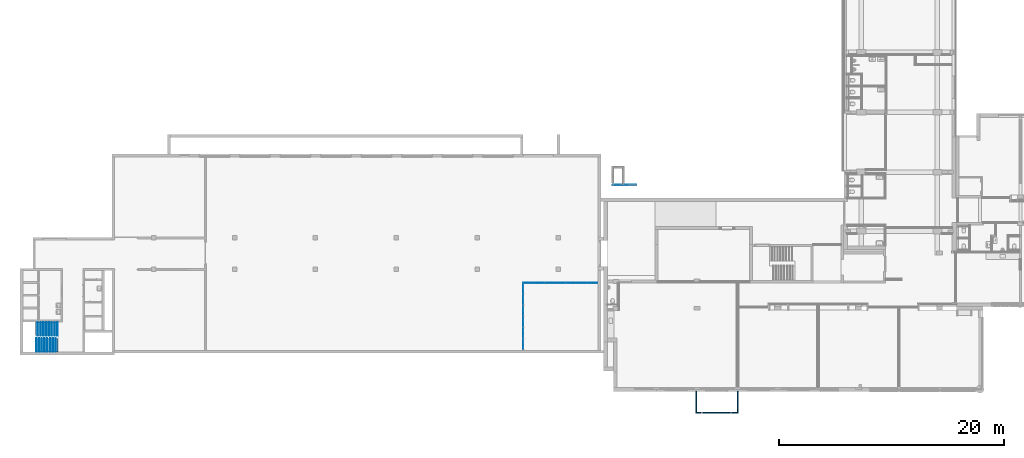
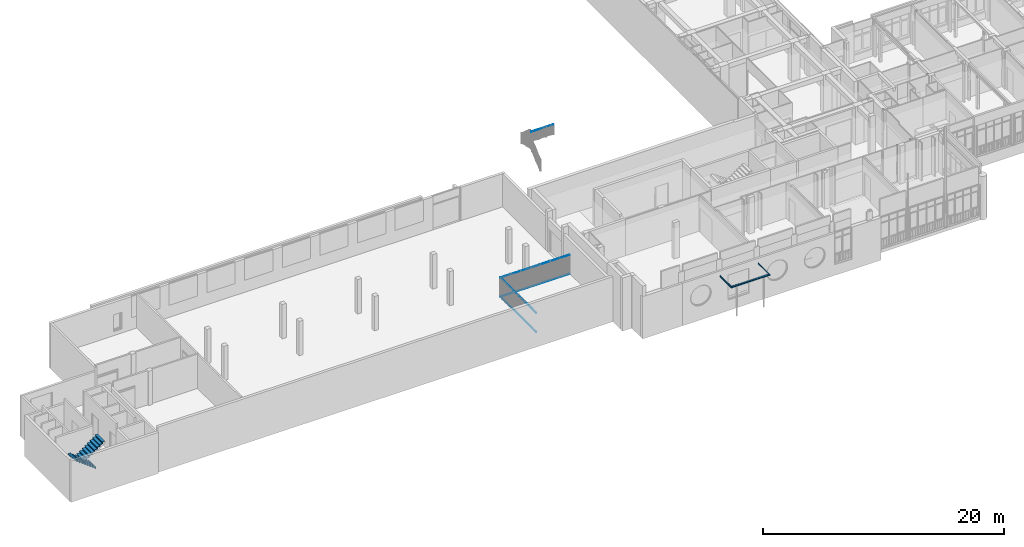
# One storey, part 56 of 135: 37 members, 3 beams, 4 elements without a shape of their own.
"""IFC2X3 building model written with IfcOpenShell, lengths in millimetres."""

from ifc_helpers import new_model, entity, si_unit, converted_unit, derived_unit, money_unit, direction, frame, origin_with_axes, place, context, subcontext, project, spatial, faceted_brep, material, type_object, element, aggregate, save


model = new_model("IFC2X3")

# Units and contexts
model_context = context("Model", 3, precision=0.01, world=origin_with_axes(), true_north=direction((0.0, 1.0)))
body_context = subcontext(model_context, "Body", "Model", "MODEL_VIEW")
ifc_project = project(units=[si_unit("LENGTHUNIT", "METRE", prefix="MILLI"), si_unit("AREAUNIT", "SQUARE_METRE"), si_unit("VOLUMEUNIT", "CUBIC_METRE"), converted_unit("PLANEANGLEUNIT", "DEGREE", entity("IfcPlaneAngleMeasure", 0.0174532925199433), si_unit("PLANEANGLEUNIT", "RADIAN"), dimensions=[0, 0, 0, 0, 0, 0, 0]), money_unit("EUR"), converted_unit("TIMEUNIT", "Year", entity("IfcTimeMeasure", 31557600.0), si_unit("TIMEUNIT", "SECOND"), dimensions=[0, 0, 1, 0, 0, 0, 0]), si_unit("MASSUNIT", "GRAM", prefix="KILO"), si_unit("THERMODYNAMICTEMPERATUREUNIT", "DEGREE_CELSIUS"), si_unit("LUMINOUSINTENSITYUNIT", "LUMEN"), si_unit("ENERGYUNIT", "JOULE", prefix="MEGA"), derived_unit("THERMALCONDUCTANCEUNIT", [(si_unit("POWERUNIT", "WATT"), 1), (si_unit("LENGTHUNIT", "METRE"), -1), (si_unit("THERMODYNAMICTEMPERATUREUNIT", "KELVIN"), -1)]), derived_unit("SPECIFICHEATCAPACITYUNIT", [(si_unit("ENERGYUNIT", "JOULE"), 1), (si_unit("MASSUNIT", "GRAM", prefix="KILO"), -1), (si_unit("THERMODYNAMICTEMPERATUREUNIT", "KELVIN"), -1)]), derived_unit("MASSDENSITYUNIT", [(si_unit("MASSUNIT", "GRAM", prefix="KILO"), 1), (si_unit("VOLUMEUNIT", "CUBIC_METRE"), -1)])], contexts=[model_context])

# Site, building, storey
site_placement = place(None, origin_with_axes())
site = spatial("IfcSite", under=ifc_project, at=site_placement, Name="Site", CompositionType="ELEMENT")
building_placement = place(site_placement, origin_with_axes())
building = spatial("IfcBuilding", under=site, at=building_placement, Name="Naam gebouw", CompositionType="ELEMENT")
storey_placement = place(building_placement, origin_with_axes())
storey = spatial("IfcBuildingStorey", under=building, at=storey_placement, Name="Begane grond N", CompositionType="ELEMENT", Elevation=0.0)

# Railing, member
railing_type = type_object("IfcRailingType", Name="Railing Type", PredefinedType="NOTDEFINED")
railing_1_placement = place(storey_placement, frame((799.9999999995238, 21575.82979156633, 4340.731848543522), z_axis=(0.0, 0.0, 1.0), x_axis=(1.0, 0.0, 0.0)))
railing_1 = element("IfcRailing", 1, at=railing_1_placement, inside=storey, type_object=railing_type, Name="_Reling-x", PredefinedType="NOTDEFINED")
ifc_material_1 = material(Name="Metaal - Staal C")
member_type_1 = type_object("IfcMemberType", Name="IfcMember", PredefinedType="USERDEFINED")
member_1_placement = place(railing_1_placement, frame((-32.49999999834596, -99.99999999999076, 4293.683880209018), z_axis=(0.0, 0.0, 1.0), x_axis=(1.0, 0.0, 0.0)))
member_1 = element("IfcMember", 2, at=member_1_placement, type_object=member_type_1, material=ifc_material_1, Name="_Bovenregel-x", context=body_context, shape_type="Brep", body=[
    faceted_brep([(-1072.499999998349, -19.99999999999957, 28.28427124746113), (-1072.499999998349, -19.99999999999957, 8.284271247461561), (1052.499999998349, -19.99999999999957, 8.284271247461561), (1052.499999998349, -19.99999999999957, 28.28427124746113), (-1032.499999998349, 19.99999999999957, 28.28427124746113), (-1032.499999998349, 19.99999999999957, 8.284271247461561), (1052.499999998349, 19.99999999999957, 8.284271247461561), (1052.499999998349, 19.99999999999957, 28.28427124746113)], [[[0, 1, 2, 3]], [[0, 4, 5, 1]], [[1, 5, 6, 2]], [[3, 2, 6, 7]], [[4, 0, 3, 7]], [[5, 4, 7, 6]]]),
])
aggregate(railing_1, [member_1])

# Railing, members
railing_2_placement = place(storey_placement, frame((-9250.67106541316, 12765.57502437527, 0.0), z_axis=(0.0, 0.0, 1.0), x_axis=(1.0, 0.0, 0.0)))
railing_2 = element("IfcRailing", 3, at=railing_2_placement, inside=storey, type_object=railing_type, Name="_Reling-x", PredefinedType="NOTDEFINED")
member_2_placement = place(railing_2_placement, frame((996.6510855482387, -2975.0, 1971.715728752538), z_axis=(0.0, 0.0, 1.0), x_axis=(1.0, 0.0, 0.0)))
member_2 = element("IfcMember", 4, at=member_2_placement, type_object=member_type_1, material=ifc_material_1, Name="_Bovenregel-x", context=body_context, shape_type="Brep", body=[
    faceted_brep([(19.99999999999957, -2950.0, 28.2842712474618), (19.99999999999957, -2950.0, 8.284271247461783), (19.99999999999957, 2930.000000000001, 8.284271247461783), (19.99999999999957, 2930.000000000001, 28.2842712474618), (-19.99999999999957, -2950.0, 28.2842712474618), (-19.99999999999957, -2950.0, 8.284271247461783), (-19.99999999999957, 2970.0, 8.284271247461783), (-19.99999999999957, 2970.0, 28.2842712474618)], [[[0, 1, 2, 3]], [[0, 4, 5, 1]], [[1, 5, 6, 2]], [[3, 2, 6, 7]], [[4, 0, 3, 7]], [[5, 4, 7, 6]]]),
])
member_3_placement = place(railing_2_placement, frame((996.6510855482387, -2975.0, 27.63932022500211), z_axis=(0.0, 0.0, 1.0), x_axis=(1.0, 0.0, 0.0)))
member_3 = element("IfcMember", 5, at=member_3_placement, type_object=member_type_1, material=ifc_material_1, Name="_Regel-x", context=body_context, shape_type="Brep", body=[
    faceted_brep([(19.99999999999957, -2950.0, 32.36067977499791), (19.99999999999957, -2950.0, 12.36067977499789), (19.99999999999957, 2930.000000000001, 12.36067977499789), (19.99999999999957, 2930.000000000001, 32.36067977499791), (-19.99999999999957, -2950.0, 32.36067977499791), (-19.99999999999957, -2950.0, 12.36067977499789), (-19.99999999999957, 2970.0, 12.36067977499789), (-19.99999999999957, 2970.0, 32.36067977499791)], [[[0, 1, 2, 3]], [[0, 4, 5, 1]], [[1, 5, 6, 2]], [[3, 2, 6, 7]], [[4, 0, 3, 7]], [[5, 4, 7, 6]]]),
])
member_4_placement = place(railing_2_placement, frame((4286.161076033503, -25.00000000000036, 1971.715728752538), z_axis=(0.0, 0.0, 1.0), x_axis=(1.0, 0.0, 0.0)))
member_4 = element("IfcMember", 6, at=member_4_placement, type_object=member_type_1, material=ifc_material_1, Name="_Bovenregel-x", context=body_context, shape_type="Brep", body=[
    faceted_brep([(-3269.509990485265, -19.99999999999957, 28.2842712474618), (-3269.509990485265, -19.99999999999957, 8.284271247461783), (3289.509990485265, -19.99999999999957, 8.284271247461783), (3289.509990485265, -19.99999999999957, 28.2842712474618), (-3309.509990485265, 19.99999999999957, 28.2842712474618), (-3309.509990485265, 19.99999999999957, 8.284271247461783), (3289.509990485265, 19.99999999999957, 8.284271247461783), (3289.509990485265, 19.99999999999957, 28.2842712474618)], [[[0, 1, 2, 3]], [[0, 4, 5, 1]], [[1, 5, 6, 2]], [[3, 2, 6, 7]], [[4, 0, 3, 7]], [[5, 4, 7, 6]]]),
])
member_5_placement = place(railing_2_placement, frame((4286.161076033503, -25.00000000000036, 27.63932022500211), z_axis=(0.0, 0.0, 1.0), x_axis=(1.0, 0.0, 0.0)))
member_5 = element("IfcMember", 7, at=member_5_placement, type_object=member_type_1, material=ifc_material_1, Name="_Regel-x", context=body_context, shape_type="Brep", body=[
    faceted_brep([(-3269.509990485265, -19.99999999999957, 32.36067977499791), (-3269.509990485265, -19.99999999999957, 12.36067977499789), (3289.509990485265, -19.99999999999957, 12.36067977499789), (3289.509990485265, -19.99999999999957, 32.36067977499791), (-3309.509990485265, 19.99999999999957, 32.36067977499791), (-3309.509990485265, 19.99999999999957, 12.36067977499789), (3289.509990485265, 19.99999999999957, 12.36067977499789), (3289.509990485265, 19.99999999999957, 32.36067977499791)], [[[0, 1, 2, 3]], [[0, 4, 5, 1]], [[1, 5, 6, 2]], [[3, 2, 6, 7]], [[4, 0, 3, 7]], [[5, 4, 7, 6]]]),
])
aggregate(railing_2, [member_2, member_3, member_4, member_5])

# Stair, members
stair_1_placement = place(storey_placement, frame((-51664.591364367, 7815.575024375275, 2170.0), z_axis=(0.0, 0.0, 1.0), x_axis=(-1.0, 0.0, 0.0)))
stair_1 = element("IfcStair", 8, at=stair_1_placement, inside=storey, Name="_Trap-x", ShapeType="NOTDEFINED")
ifc_material_2 = material(Name="Hout - Vloer")
member_type_2 = type_object("IfcMemberType", Name="IfcMember", PredefinedType="USERDEFINED")
member_6_placement = place(stair_1_placement, frame((0.0, 599.9999999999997, 187.5), z_axis=(0.0, 0.0, 1.0), x_axis=(0.0, 1.0, 0.0)))
member_6 = element("IfcMember", 9, at=member_6_placement, type_object=member_type_2, material=ifc_material_2, Name="_Traptrede-x", context=body_context, shape_type="Brep", body=[
    faceted_brep([(-600.0, 0.0, -38.0), (600.0, 0.0, -38.0), (600.0, 0.0, 0.0), (-600.0, 0.0, 0.0), (-600.0, 308.1068211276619, -38.0), (600.0, 308.1068211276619, -38.0), (600.0, 308.1068211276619, 0.0), (-600.0, 308.1068211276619, 0.0)], [[[0, 1, 2, 3]], [[0, 4, 5, 1]], [[1, 5, 6, 2]], [[3, 2, 6, 7]], [[4, 0, 3, 7]], [[5, 4, 7, 6]]]),
])
member_7_placement = place(stair_1_placement, frame((-250.1068211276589, 599.9999999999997, 375.0), z_axis=(0.0, 0.0, 1.0), x_axis=(0.0, 1.0, 0.0)))
member_7 = element("IfcMember", 10, at=member_7_placement, type_object=member_type_2, material=ifc_material_2, Name="_Traptrede-x", context=body_context, shape_type="Brep", body=[
    faceted_brep([(-600.0, 0.0, -38.0), (600.0, 0.0, -38.0), (600.0, 0.0, 0.0), (-600.0, 0.0, 0.0), (-600.0, 308.1068211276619, -38.0), (600.0, 308.1068211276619, -38.0), (600.0, 308.1068211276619, 0.0), (-600.0, 308.1068211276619, 0.0)], [[[0, 1, 2, 3]], [[0, 4, 5, 1]], [[1, 5, 6, 2]], [[3, 2, 6, 7]], [[4, 0, 3, 7]], [[5, 4, 7, 6]]]),
])
member_8_placement = place(stair_1_placement, frame((-500.2136422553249, 599.9999999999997, 562.5), z_axis=(0.0, 0.0, 1.0), x_axis=(0.0, 1.0, 0.0)))
member_8 = element("IfcMember", 11, at=member_8_placement, type_object=member_type_2, material=ifc_material_2, Name="_Traptrede-x", context=body_context, shape_type="Brep", body=[
    faceted_brep([(-600.0, 0.0, -38.0), (600.0, 0.0, -38.0), (600.0, 0.0, 0.0), (-600.0, 0.0, 0.0), (-600.0, 308.1068211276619, -38.0), (600.0, 308.1068211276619, -38.0), (600.0, 308.1068211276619, 0.0), (-600.0, 308.1068211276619, 0.0)], [[[0, 1, 2, 3]], [[0, 4, 5, 1]], [[1, 5, 6, 2]], [[3, 2, 6, 7]], [[4, 0, 3, 7]], [[5, 4, 7, 6]]]),
])
member_9_placement = place(stair_1_placement, frame((-750.3204633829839, 599.9999999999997, 750.0), z_axis=(0.0, 0.0, 1.0), x_axis=(0.0, 1.0, 0.0)))
member_9 = element("IfcMember", 12, at=member_9_placement, type_object=member_type_2, material=ifc_material_2, Name="_Traptrede-x", context=body_context, shape_type="Brep", body=[
    faceted_brep([(-600.0, 0.0, -38.0), (600.0, 0.0, -38.0), (600.0, 0.0, 0.0), (-600.0, 0.0, 0.0), (-600.0, 308.1068211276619, -38.0), (600.0, 308.1068211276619, -38.0), (600.0, 308.1068211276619, 0.0), (-600.0, 308.1068211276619, 0.0)], [[[0, 1, 2, 3]], [[0, 4, 5, 1]], [[1, 5, 6, 2]], [[3, 2, 6, 7]], [[4, 0, 3, 7]], [[5, 4, 7, 6]]]),
])
member_10_placement = place(stair_1_placement, frame((-1000.42728451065, 600.0000000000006, 937.5), z_axis=(0.0, 0.0, 1.0), x_axis=(0.0, 1.0, 0.0)))
member_10 = element("IfcMember", 13, at=member_10_placement, type_object=member_type_2, material=ifc_material_2, Name="_Traptrede-x", context=body_context, shape_type="Brep", body=[
    faceted_brep([(-600.0, 0.0, -38.0), (600.0, 0.0, -38.0), (600.0, 0.0, 0.0), (-600.0, 0.0, 0.0), (-600.0, 308.1068211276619, -38.0), (600.0, 308.1068211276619, -38.0), (600.0, 308.1068211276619, 0.0), (-600.0, 308.1068211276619, 0.0)], [[[0, 1, 2, 3]], [[0, 4, 5, 1]], [[1, 5, 6, 2]], [[3, 2, 6, 7]], [[4, 0, 3, 7]], [[5, 4, 7, 6]]]),
])
member_11_placement = place(stair_1_placement, frame((-1250.534105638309, 600.0000000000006, 1125.0), z_axis=(0.0, 0.0, 1.0), x_axis=(0.0, 1.0, 0.0)))
member_11 = element("IfcMember", 14, at=member_11_placement, type_object=member_type_2, material=ifc_material_2, Name="_Traptrede-x", context=body_context, shape_type="Brep", body=[
    faceted_brep([(-600.0, 0.0, -38.0), (600.0, 0.0, -38.0), (600.0, 0.0, 0.0), (-600.0, 0.0, 0.0), (-600.0, 308.1068211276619, -38.0), (600.0, 308.1068211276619, -38.0), (600.0, 308.1068211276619, 0.0), (-600.0, 308.1068211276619, 0.0)], [[[0, 1, 2, 3]], [[0, 4, 5, 1]], [[1, 5, 6, 2]], [[3, 2, 6, 7]], [[4, 0, 3, 7]], [[5, 4, 7, 6]]]),
])
member_12_placement = place(stair_1_placement, frame((-1500.640926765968, 600.0000000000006, 1312.5), z_axis=(0.0, 0.0, 1.0), x_axis=(0.0, 1.0, 0.0)))
member_12 = element("IfcMember", 15, at=member_12_placement, type_object=member_type_2, material=ifc_material_2, Name="_Traptrede-x", context=body_context, shape_type="Brep", body=[
    faceted_brep([(-600.0, 0.0, -38.0), (600.0, 0.0, -38.0), (600.0, 0.0, 0.0), (-600.0, 0.0, 0.0), (-600.0, 308.1068211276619, -38.0), (600.0, 308.1068211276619, -38.0), (600.0, 308.1068211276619, 0.0), (-600.0, 308.1068211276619, 0.0)], [[[0, 1, 2, 3]], [[0, 4, 5, 1]], [[1, 5, 6, 2]], [[3, 2, 6, 7]], [[4, 0, 3, 7]], [[5, 4, 7, 6]]]),
])
member_13_placement = place(stair_1_placement, frame((-1750.747747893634, 600.0000000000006, 1500.0), z_axis=(0.0, 0.0, 1.0), x_axis=(0.0, 1.0, 0.0)))
member_13 = element("IfcMember", 16, at=member_13_placement, type_object=member_type_2, material=ifc_material_2, Name="_Traptrede-x", context=body_context, shape_type="Brep", body=[
    faceted_brep([(-600.0, 0.0, -38.0), (600.0, 0.0, -38.0), (600.0, 0.0, 0.0), (-600.0, 0.0, 0.0), (-600.0, 250.1068211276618, -38.0), (600.0, 250.1068211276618, -38.0), (600.0, 250.1068211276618, 0.0), (-600.0, 250.1068211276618, 0.0)], [[[0, 1, 2, 3]], [[0, 4, 5, 1]], [[1, 5, 6, 2]], [[3, 2, 6, 7]], [[4, 0, 3, 7]], [[5, 4, 7, 6]]]),
])

stair_2_placement = place(storey_placement, frame((-49663.73679534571, 8065.575024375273, 0.0), z_axis=(0.0, 0.0, 1.0), x_axis=(1.0, 0.0, 0.0)))
stair_2 = element("IfcStair", 17, at=stair_2_placement, inside=storey, Name="_Trap-x", ShapeType="NOTDEFINED")
member_14_placement = place(stair_2_placement, frame((0.0, 599.9999999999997, 187.5), z_axis=(0.0, 0.0, 1.0), x_axis=(0.0, 1.0, 0.0)))
member_14 = element("IfcMember", 18, at=member_14_placement, type_object=member_type_2, material=ifc_material_2, Name="_Traptrede-x", context=body_context, shape_type="Brep", body=[
    faceted_brep([(-600.0, 0.0, -38.0), (600.0, 0.0, -38.0), (600.0, 0.0, 0.0), (-600.0, 0.0, 0.0), (-600.0, 308.1068211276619, -38.0), (600.0, 308.1068211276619, -38.0), (600.0, 308.1068211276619, 0.0), (-600.0, 308.1068211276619, 0.0)], [[[0, 1, 2, 3]], [[0, 4, 5, 1]], [[1, 5, 6, 2]], [[3, 2, 6, 7]], [[4, 0, 3, 7]], [[5, 4, 7, 6]]]),
])
member_15_placement = place(stair_2_placement, frame((-500.2136422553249, 599.9999999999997, 562.5), z_axis=(0.0, 0.0, 1.0), x_axis=(0.0, 1.0, 0.0)))
member_15 = element("IfcMember", 19, at=member_15_placement, type_object=member_type_2, material=ifc_material_2, Name="_Traptrede-x", context=body_context, shape_type="Brep", body=[
    faceted_brep([(-600.0, 0.0, -38.0), (600.0, 0.0, -38.0), (600.0, 0.0, 0.0), (-600.0, 0.0, 0.0), (-600.0, 308.1068211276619, -38.0), (600.0, 308.1068211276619, -38.0), (600.0, 308.1068211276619, 0.0), (-600.0, 308.1068211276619, 0.0)], [[[0, 1, 2, 3]], [[0, 4, 5, 1]], [[1, 5, 6, 2]], [[3, 2, 6, 7]], [[4, 0, 3, 7]], [[5, 4, 7, 6]]]),
])
member_16_placement = place(stair_2_placement, frame((-250.1068211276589, 599.9999999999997, 375.0), z_axis=(0.0, 0.0, 1.0), x_axis=(0.0, 1.0, 0.0)))
member_16 = element("IfcMember", 20, at=member_16_placement, type_object=member_type_2, material=ifc_material_2, Name="_Traptrede-x", context=body_context, shape_type="Brep", body=[
    faceted_brep([(-600.0, 0.0, -38.0), (600.0, 0.0, -38.0), (600.0, 0.0, 0.0), (-600.0, 0.0, 0.0), (-600.0, 308.1068211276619, -38.0), (600.0, 308.1068211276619, -38.0), (600.0, 308.1068211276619, 0.0), (-600.0, 308.1068211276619, 0.0)], [[[0, 1, 2, 3]], [[0, 4, 5, 1]], [[1, 5, 6, 2]], [[3, 2, 6, 7]], [[4, 0, 3, 7]], [[5, 4, 7, 6]]]),
])
member_17_placement = place(stair_2_placement, frame((-750.3204633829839, 599.9999999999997, 750.0), z_axis=(0.0, 0.0, 1.0), x_axis=(0.0, 1.0, 0.0)))
member_17 = element("IfcMember", 21, at=member_17_placement, type_object=member_type_2, material=ifc_material_2, Name="_Traptrede-x", context=body_context, shape_type="Brep", body=[
    faceted_brep([(-600.0, 0.0, -38.0), (600.0, 0.0, -38.0), (600.0, 0.0, 0.0), (-600.0, 0.0, 0.0), (-600.0, 308.1068211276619, -38.0), (600.0, 308.1068211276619, -38.0), (600.0, 308.1068211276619, 0.0), (-600.0, 308.1068211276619, 0.0)], [[[0, 1, 2, 3]], [[0, 4, 5, 1]], [[1, 5, 6, 2]], [[3, 2, 6, 7]], [[4, 0, 3, 7]], [[5, 4, 7, 6]]]),
])
member_18_placement = place(stair_2_placement, frame((-1250.534105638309, 599.9999999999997, 1125.0), z_axis=(0.0, 0.0, 1.0), x_axis=(0.0, 1.0, 0.0)))
member_18 = element("IfcMember", 22, at=member_18_placement, type_object=member_type_2, material=ifc_material_2, Name="_Traptrede-x", context=body_context, shape_type="Brep", body=[
    faceted_brep([(-600.0, 0.0, -38.0), (600.0, 0.0, -38.0), (600.0, 0.0, 0.0), (-600.0, 0.0, 0.0), (-600.0, 308.1068211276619, -38.0), (600.0, 308.1068211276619, -38.0), (600.0, 308.1068211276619, 0.0), (-600.0, 308.1068211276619, 0.0)], [[[0, 1, 2, 3]], [[0, 4, 5, 1]], [[1, 5, 6, 2]], [[3, 2, 6, 7]], [[4, 0, 3, 7]], [[5, 4, 7, 6]]]),
])
member_19_placement = place(stair_2_placement, frame((-1500.640926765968, 599.9999999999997, 1312.5), z_axis=(0.0, 0.0, 1.0), x_axis=(0.0, 1.0, 0.0)))
member_19 = element("IfcMember", 23, at=member_19_placement, type_object=member_type_2, material=ifc_material_2, Name="_Traptrede-x", context=body_context, shape_type="Brep", body=[
    faceted_brep([(-600.0, 0.0, -38.0), (600.0, 0.0, -38.0), (600.0, 0.0, 0.0), (-600.0, 0.0, 0.0), (-600.0, 308.1068211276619, -38.0), (600.0, 308.1068211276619, -38.0), (600.0, 308.1068211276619, 0.0), (-600.0, 308.1068211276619, 0.0)], [[[0, 1, 2, 3]], [[0, 4, 5, 1]], [[1, 5, 6, 2]], [[3, 2, 6, 7]], [[4, 0, 3, 7]], [[5, 4, 7, 6]]]),
])
member_20_placement = place(stair_2_placement, frame((-1000.42728451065, 599.9999999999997, 937.5), z_axis=(0.0, 0.0, 1.0), x_axis=(0.0, 1.0, 0.0)))
member_20 = element("IfcMember", 24, at=member_20_placement, type_object=member_type_2, material=ifc_material_2, Name="_Traptrede-x", context=body_context, shape_type="Brep", body=[
    faceted_brep([(-600.0, 0.0, -38.0), (600.0, 0.0, -38.0), (600.0, 0.0, 0.0), (-600.0, 0.0, 0.0), (-600.0, 308.1068211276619, -38.0), (600.0, 308.1068211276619, -38.0), (600.0, 308.1068211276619, 0.0), (-600.0, 308.1068211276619, 0.0)], [[[0, 1, 2, 3]], [[0, 4, 5, 1]], [[1, 5, 6, 2]], [[3, 2, 6, 7]], [[4, 0, 3, 7]], [[5, 4, 7, 6]]]),
])
member_21_placement = place(stair_2_placement, frame((-1750.747747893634, 599.9999999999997, 1500.0), z_axis=(0.0, 0.0, 1.0), x_axis=(0.0, 1.0, 0.0)))
member_21 = element("IfcMember", 25, at=member_21_placement, type_object=member_type_2, material=ifc_material_2, Name="_Traptrede-x", context=body_context, shape_type="Brep", body=[
    faceted_brep([(-600.0, 0.0, -38.0), (600.0, 0.0, -38.0), (600.0, 0.0, 0.0), (-600.0, 0.0, 0.0), (-600.0, 250.1068211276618, -38.0), (600.0, 250.1068211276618, -38.0), (600.0, 250.1068211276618, 0.0), (-600.0, 250.1068211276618, 0.0)], [[[0, 1, 2, 3]], [[0, 4, 5, 1]], [[1, 5, 6, 2]], [[3, 2, 6, 7]], [[4, 0, 3, 7]], [[5, 4, 7, 6]]]),
])

# Member
member_type_3 = type_object("IfcMemberType", Name="IfcMember", PredefinedType="USERDEFINED")
member_22_placement = place(stair_1_placement, frame((0.0, 599.9999999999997, 149.5000000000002), z_axis=(0.0, 0.0, 1.0), x_axis=(0.0, 1.0, 0.0)))
member_22 = element("IfcMember", 26, at=member_22_placement, type_object=member_type_3, material=ifc_material_2, Name="_Stootbord-x", context=body_context, shape_type="Brep", body=[
    faceted_brep([(600.0, 40.0, 0.0), (600.0, 57.99999999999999, 0.0), (-600.0, 58.00000000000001, 0.0), (-600.0, 40.00000000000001, 0.0), (600.0, 40.00000000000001, -149.5), (600.0, 58.00000000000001, -149.5), (-600.0, 58.00000000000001, -149.5), (-600.0, 40.00000000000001, -149.5)], [[[0, 1, 2, 3]], [[0, 4, 5, 1]], [[1, 5, 6, 2]], [[3, 2, 6, 7]], [[4, 0, 3, 7]], [[5, 4, 7, 6]]]),
])

member_23_placement = place(stair_1_placement, frame((-250.1068211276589, 599.9999999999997, 337.0000000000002), z_axis=(0.0, 0.0, 1.0), x_axis=(0.0, 1.0, 0.0)))
member_23 = element("IfcMember", 27, at=member_23_placement, type_object=member_type_3, material=ifc_material_2, Name="_Stootbord-x", context=body_context, shape_type="Brep", body=[
    faceted_brep([(600.0, 40.0, 0.0), (600.0, 57.99999999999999, 0.0), (-600.0, 58.00000000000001, 0.0), (-600.0, 40.00000000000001, 0.0), (600.0, 40.00000000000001, -149.5), (600.0, 58.00000000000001, -149.5), (-600.0, 58.00000000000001, -149.5), (-600.0, 40.00000000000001, -149.5)], [[[0, 1, 2, 3]], [[0, 4, 5, 1]], [[1, 5, 6, 2]], [[3, 2, 6, 7]], [[4, 0, 3, 7]], [[5, 4, 7, 6]]]),
])

member_24_placement = place(stair_1_placement, frame((-500.2136422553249, 599.9999999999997, 524.5000000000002), z_axis=(0.0, 0.0, 1.0), x_axis=(0.0, 1.0, 0.0)))
member_24 = element("IfcMember", 28, at=member_24_placement, type_object=member_type_3, material=ifc_material_2, Name="_Stootbord-x", context=body_context, shape_type="Brep", body=[
    faceted_brep([(600.0, 40.0, 0.0), (600.0, 57.99999999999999, 0.0), (-600.0, 58.00000000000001, 0.0), (-600.0, 40.00000000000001, 0.0), (600.0, 40.00000000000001, -149.5), (600.0, 58.00000000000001, -149.5), (-600.0, 58.00000000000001, -149.5), (-600.0, 40.00000000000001, -149.5)], [[[0, 1, 2, 3]], [[0, 4, 5, 1]], [[1, 5, 6, 2]], [[3, 2, 6, 7]], [[4, 0, 3, 7]], [[5, 4, 7, 6]]]),
])

member_25_placement = place(stair_1_placement, frame((-750.3204633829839, 599.9999999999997, 712.0000000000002), z_axis=(0.0, 0.0, 1.0), x_axis=(0.0, 1.0, 0.0)))
member_25 = element("IfcMember", 29, at=member_25_placement, type_object=member_type_3, material=ifc_material_2, Name="_Stootbord-x", context=body_context, shape_type="Brep", body=[
    faceted_brep([(600.0, 40.0, 0.0), (600.0, 57.99999999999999, 0.0), (-600.0, 58.00000000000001, 0.0), (-600.0, 40.00000000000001, 0.0), (600.0, 40.00000000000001, -149.5), (600.0, 58.00000000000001, -149.5), (-600.0, 58.00000000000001, -149.5), (-600.0, 40.00000000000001, -149.5)], [[[0, 1, 2, 3]], [[0, 4, 5, 1]], [[1, 5, 6, 2]], [[3, 2, 6, 7]], [[4, 0, 3, 7]], [[5, 4, 7, 6]]]),
])

member_26_placement = place(stair_1_placement, frame((-1000.42728451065, 600.0000000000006, 899.5000000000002), z_axis=(0.0, 0.0, 1.0), x_axis=(0.0, 1.0, 0.0)))
member_26 = element("IfcMember", 30, at=member_26_placement, type_object=member_type_3, material=ifc_material_2, Name="_Stootbord-x", context=body_context, shape_type="Brep", body=[
    faceted_brep([(600.0, 40.0, 0.0), (600.0, 57.99999999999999, 0.0), (-600.0, 58.00000000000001, 0.0), (-600.0, 40.00000000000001, 0.0), (600.0, 40.00000000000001, -149.5), (600.0, 58.00000000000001, -149.5), (-600.0, 58.00000000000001, -149.5), (-600.0, 40.00000000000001, -149.5)], [[[0, 1, 2, 3]], [[0, 4, 5, 1]], [[1, 5, 6, 2]], [[3, 2, 6, 7]], [[4, 0, 3, 7]], [[5, 4, 7, 6]]]),
])

member_27_placement = place(stair_1_placement, frame((-1250.534105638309, 600.0000000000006, 1087.0), z_axis=(0.0, 0.0, 1.0), x_axis=(0.0, 1.0, 0.0)))
member_27 = element("IfcMember", 31, at=member_27_placement, type_object=member_type_3, material=ifc_material_2, Name="_Stootbord-x", context=body_context, shape_type="Brep", body=[
    faceted_brep([(600.0, 40.0, 0.0), (600.0, 57.99999999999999, 0.0), (-600.0, 58.00000000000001, 0.0), (-600.0, 40.00000000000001, 0.0), (600.0, 40.00000000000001, -149.5), (600.0, 58.00000000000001, -149.5), (-600.0, 58.00000000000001, -149.5), (-600.0, 40.00000000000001, -149.5)], [[[0, 1, 2, 3]], [[0, 4, 5, 1]], [[1, 5, 6, 2]], [[3, 2, 6, 7]], [[4, 0, 3, 7]], [[5, 4, 7, 6]]]),
])

member_28_placement = place(stair_1_placement, frame((-1500.640926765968, 600.0000000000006, 1274.5), z_axis=(0.0, 0.0, 1.0), x_axis=(0.0, 1.0, 0.0)))
member_28 = element("IfcMember", 32, at=member_28_placement, type_object=member_type_3, material=ifc_material_2, Name="_Stootbord-x", context=body_context, shape_type="Brep", body=[
    faceted_brep([(600.0, 40.0, 0.0), (600.0, 57.99999999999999, 0.0), (-600.0, 58.00000000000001, 0.0), (-600.0, 40.00000000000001, 0.0), (600.0, 40.00000000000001, -149.5), (600.0, 58.00000000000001, -149.5), (-600.0, 58.00000000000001, -149.5), (-600.0, 40.00000000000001, -149.5)], [[[0, 1, 2, 3]], [[0, 4, 5, 1]], [[1, 5, 6, 2]], [[3, 2, 6, 7]], [[4, 0, 3, 7]], [[5, 4, 7, 6]]]),
])

member_29_placement = place(stair_1_placement, frame((-1750.747747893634, 600.0000000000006, 1462.0), z_axis=(0.0, 0.0, 1.0), x_axis=(0.0, 1.0, 0.0)))
member_29 = element("IfcMember", 33, at=member_29_placement, type_object=member_type_3, material=ifc_material_2, Name="_Stootbord-x", context=body_context, shape_type="Brep", body=[
    faceted_brep([(600.0, 40.0, 0.0), (600.0, 57.99999999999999, 0.0), (-600.0, 58.00000000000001, 0.0), (-600.0, 40.00000000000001, 0.0), (600.0, 40.00000000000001, -149.5), (600.0, 58.00000000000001, -149.5), (-600.0, 58.00000000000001, -149.5), (-600.0, 40.00000000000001, -149.5)], [[[0, 1, 2, 3]], [[0, 4, 5, 1]], [[1, 5, 6, 2]], [[3, 2, 6, 7]], [[4, 0, 3, 7]], [[5, 4, 7, 6]]]),
])

aggregate(stair_1, [member_22, member_23, member_24, member_25, member_26, member_27, member_28, member_29, member_6, member_7, member_8, member_9, member_10, member_11, member_12, member_13])

member_30_placement = place(stair_2_placement, frame((0.0, 599.9999999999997, 149.5), z_axis=(0.0, 0.0, 1.0), x_axis=(0.0, 1.0, 0.0)))
member_30 = element("IfcMember", 34, at=member_30_placement, type_object=member_type_3, material=ifc_material_2, Name="_Stootbord-x", context=body_context, shape_type="Brep", body=[
    faceted_brep([(600.0, 40.0, 0.0), (600.0, 57.99999999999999, 0.0), (-600.0, 58.00000000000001, 0.0), (-600.0, 40.00000000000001, 0.0), (600.0, 40.00000000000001, -149.5), (600.0, 58.00000000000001, -149.5), (-600.0, 58.00000000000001, -149.5), (-600.0, 40.00000000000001, -149.5)], [[[0, 1, 2, 3]], [[0, 4, 5, 1]], [[1, 5, 6, 2]], [[3, 2, 6, 7]], [[4, 0, 3, 7]], [[5, 4, 7, 6]]]),
])

member_31_placement = place(stair_2_placement, frame((-250.1068211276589, 599.9999999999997, 337.0), z_axis=(0.0, 0.0, 1.0), x_axis=(0.0, 1.0, 0.0)))
member_31 = element("IfcMember", 35, at=member_31_placement, type_object=member_type_3, material=ifc_material_2, Name="_Stootbord-x", context=body_context, shape_type="Brep", body=[
    faceted_brep([(600.0, 40.0, 0.0), (600.0, 57.99999999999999, 0.0), (-600.0, 58.00000000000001, 0.0), (-600.0, 40.00000000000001, 0.0), (600.0, 40.00000000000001, -149.5), (600.0, 58.00000000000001, -149.5), (-600.0, 58.00000000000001, -149.5), (-600.0, 40.00000000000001, -149.5)], [[[0, 1, 2, 3]], [[0, 4, 5, 1]], [[1, 5, 6, 2]], [[3, 2, 6, 7]], [[4, 0, 3, 7]], [[5, 4, 7, 6]]]),
])

member_32_placement = place(stair_2_placement, frame((-500.2136422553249, 599.9999999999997, 524.5), z_axis=(0.0, 0.0, 1.0), x_axis=(0.0, 1.0, 0.0)))
member_32 = element("IfcMember", 36, at=member_32_placement, type_object=member_type_3, material=ifc_material_2, Name="_Stootbord-x", context=body_context, shape_type="Brep", body=[
    faceted_brep([(600.0, 40.0, 0.0), (600.0, 57.99999999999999, 0.0), (-600.0, 58.00000000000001, 0.0), (-600.0, 40.00000000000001, 0.0), (600.0, 40.00000000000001, -149.5), (600.0, 58.00000000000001, -149.5), (-600.0, 58.00000000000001, -149.5), (-600.0, 40.00000000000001, -149.5)], [[[0, 1, 2, 3]], [[0, 4, 5, 1]], [[1, 5, 6, 2]], [[3, 2, 6, 7]], [[4, 0, 3, 7]], [[5, 4, 7, 6]]]),
])

member_33_placement = place(stair_2_placement, frame((-750.3204633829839, 599.9999999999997, 712.0), z_axis=(0.0, 0.0, 1.0), x_axis=(0.0, 1.0, 0.0)))
member_33 = element("IfcMember", 37, at=member_33_placement, type_object=member_type_3, material=ifc_material_2, Name="_Stootbord-x", context=body_context, shape_type="Brep", body=[
    faceted_brep([(600.0, 40.0, 0.0), (600.0, 57.99999999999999, 0.0), (-600.0, 58.00000000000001, 0.0), (-600.0, 40.00000000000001, 0.0), (600.0, 40.00000000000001, -149.5), (600.0, 58.00000000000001, -149.5), (-600.0, 58.00000000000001, -149.5), (-600.0, 40.00000000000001, -149.5)], [[[0, 1, 2, 3]], [[0, 4, 5, 1]], [[1, 5, 6, 2]], [[3, 2, 6, 7]], [[4, 0, 3, 7]], [[5, 4, 7, 6]]]),
])

member_34_placement = place(stair_2_placement, frame((-1000.42728451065, 599.9999999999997, 899.5), z_axis=(0.0, 0.0, 1.0), x_axis=(0.0, 1.0, 0.0)))
member_34 = element("IfcMember", 38, at=member_34_placement, type_object=member_type_3, material=ifc_material_2, Name="_Stootbord-x", context=body_context, shape_type="Brep", body=[
    faceted_brep([(600.0, 40.0, 0.0), (600.0, 57.99999999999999, 0.0), (-600.0, 58.00000000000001, 0.0), (-600.0, 40.00000000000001, 0.0), (600.0, 40.00000000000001, -149.5), (600.0, 58.00000000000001, -149.5), (-600.0, 58.00000000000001, -149.5), (-600.0, 40.00000000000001, -149.5)], [[[0, 1, 2, 3]], [[0, 4, 5, 1]], [[1, 5, 6, 2]], [[3, 2, 6, 7]], [[4, 0, 3, 7]], [[5, 4, 7, 6]]]),
])

member_35_placement = place(stair_2_placement, frame((-1250.534105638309, 599.9999999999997, 1087.0), z_axis=(0.0, 0.0, 1.0), x_axis=(0.0, 1.0, 0.0)))
member_35 = element("IfcMember", 39, at=member_35_placement, type_object=member_type_3, material=ifc_material_2, Name="_Stootbord-x", context=body_context, shape_type="Brep", body=[
    faceted_brep([(600.0, 40.0, 0.0), (600.0, 57.99999999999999, 0.0), (-600.0, 58.00000000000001, 0.0), (-600.0, 40.00000000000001, 0.0), (600.0, 40.00000000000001, -149.5), (600.0, 58.00000000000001, -149.5), (-600.0, 58.00000000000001, -149.5), (-600.0, 40.00000000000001, -149.5)], [[[0, 1, 2, 3]], [[0, 4, 5, 1]], [[1, 5, 6, 2]], [[3, 2, 6, 7]], [[4, 0, 3, 7]], [[5, 4, 7, 6]]]),
])

member_36_placement = place(stair_2_placement, frame((-1500.640926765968, 599.9999999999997, 1274.5), z_axis=(0.0, 0.0, 1.0), x_axis=(0.0, 1.0, 0.0)))
member_36 = element("IfcMember", 40, at=member_36_placement, type_object=member_type_3, material=ifc_material_2, Name="_Stootbord-x", context=body_context, shape_type="Brep", body=[
    faceted_brep([(600.0, 40.0, 0.0), (600.0, 57.99999999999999, 0.0), (-600.0, 58.00000000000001, 0.0), (-600.0, 40.00000000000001, 0.0), (600.0, 40.00000000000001, -149.5), (600.0, 58.00000000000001, -149.5), (-600.0, 58.00000000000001, -149.5), (-600.0, 40.00000000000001, -149.5)], [[[0, 1, 2, 3]], [[0, 4, 5, 1]], [[1, 5, 6, 2]], [[3, 2, 6, 7]], [[4, 0, 3, 7]], [[5, 4, 7, 6]]]),
])

member_37_placement = place(stair_2_placement, frame((-1750.747747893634, 599.9999999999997, 1462.0), z_axis=(0.0, 0.0, 1.0), x_axis=(0.0, 1.0, 0.0)))
member_37 = element("IfcMember", 41, at=member_37_placement, type_object=member_type_3, material=ifc_material_2, Name="_Stootbord-x", context=body_context, shape_type="Brep", body=[
    faceted_brep([(600.0, 40.0, 0.0), (600.0, 57.99999999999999, 0.0), (-600.0, 58.00000000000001, 0.0), (-600.0, 40.00000000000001, 0.0), (600.0, 40.00000000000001, -149.5), (600.0, 58.00000000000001, -149.5), (-600.0, 58.00000000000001, -149.5), (-600.0, 40.00000000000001, -149.5)], [[[0, 1, 2, 3]], [[0, 4, 5, 1]], [[1, 5, 6, 2]], [[3, 2, 6, 7]], [[4, 0, 3, 7]], [[5, 4, 7, 6]]]),
])

aggregate(stair_2, [member_30, member_31, member_32, member_33, member_34, member_35, member_36, member_37, member_14, member_15, member_16, member_17, member_18, member_19, member_20, member_21])

# Beams
ifc_material_3 = material(Name="Steen - Baksteen")
beam_type = type_object("IfcBeamType", Name="L150X100X10 100 x 150", PredefinedType="BEAM")
beam_1_placement = place(storey_placement, frame((10847.44965059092, 1205.668707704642, 2618.0), z_axis=(0.0, 0.0, 1.0), x_axis=(1.0, 0.0, 0.0)))
element("IfcBeam", 42, at=beam_1_placement, inside=storey, type_object=beam_type, material=ifc_material_3, Name="_Balk-x", ObjectType="BEAM", context=body_context, shape_type="Brep", body=[
    faceted_brep([(-50.00000000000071, 49.99999999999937, -75.00000000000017), (-50.00000000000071, 1910.000000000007, -75.00000000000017), (50.00000000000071, 1910.000000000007, -75.00000000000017), (50.00000000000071, -49.99999999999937, -75.00000000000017), (-50.00000000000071, 49.99999999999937, 75.00000000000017), (-50.00000000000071, 1910.000000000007, 75.00000000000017), (-39.99999999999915, 1910.000000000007, 75.00000000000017), (-39.99999999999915, 1910.000000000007, -64.99999999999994), (50.00000000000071, 1910.000000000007, -64.99999999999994), (50.00000000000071, -49.99999999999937, -64.99999999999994), (-39.99999999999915, 39.99999999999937, -64.99999999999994), (-39.99999999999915, 39.99999999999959, 75.00000000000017)], [[[0, 1, 2, 3]], [[4, 5, 1, 0]], [[2, 1, 5, 6, 7, 8]], [[3, 2, 8, 9]], [[4, 0, 3, 9, 10, 11]], [[11, 6, 5, 4]], [[10, 7, 6, 11]], [[9, 8, 7, 10]]]),
])
beam_2_placement = place(storey_placement, frame((7152.449650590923, 1205.668707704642, 2618.0), z_axis=(0.0, 0.0, 1.0), x_axis=(1.0, 0.0, 0.0)))
element("IfcBeam", 43, at=beam_2_placement, inside=storey, type_object=beam_type, material=ifc_material_3, Name="_Balk-x", ObjectType="BEAM", context=body_context, shape_type="Brep", body=[
    faceted_brep([(49.99999999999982, 50.00000000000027, 75.00000000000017), (49.99999999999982, 1910.000000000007, 75.00000000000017), (40.00000000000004, 1910.000000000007, 75.00000000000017), (40.00000000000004, 40.00000000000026, 75.00000000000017), (49.99999999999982, 50.00000000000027, -75.00000000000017), (49.99999999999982, 1910.000000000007, -75.00000000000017), (-49.99999999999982, 1910.000000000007, -75.00000000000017), (-49.99999999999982, 1910.000000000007, -64.99999999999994), (40.00000000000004, 1910.000000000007, -64.99999999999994), (40.00000000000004, 40.00000000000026, -64.99999999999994), (-49.99999999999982, -50.00000000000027, -64.99999999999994), (-49.99999999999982, -50.00000000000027, -75.00000000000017)], [[[0, 1, 2, 3]], [[4, 5, 1, 0]], [[2, 1, 5, 6, 7, 8]], [[3, 2, 8, 9]], [[4, 0, 3, 9, 10, 11]], [[11, 6, 5, 4]], [[10, 7, 6, 11]], [[9, 8, 7, 10]]]),
])
beam_3_placement = place(storey_placement, frame((7152.449650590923, 1205.668707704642, 2618.0), z_axis=(0.0, 0.0, 1.0), x_axis=(0.0, -1.0, 0.0)))
element("IfcBeam", 44, at=beam_3_placement, inside=storey, type_object=beam_type, material=ifc_material_3, Name="_Balk-x", ObjectType="BEAM", context=body_context, shape_type="Brep", body=[
    faceted_brep([(-50.00000000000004, 49.99999999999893, -75.00000000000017), (-50.00000000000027, 3644.999999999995, -75.00000000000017), (49.99999999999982, 3744.999999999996, -75.00000000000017), (50.00000000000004, -50.00000000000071, -75.00000000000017), (-50.00000000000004, 49.99999999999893, 75.00000000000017), (-50.00000000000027, 3644.999999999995, 75.00000000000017), (-40.00000000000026, 3654.999999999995, 75.00000000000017), (-40.00000000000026, 3654.999999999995, -64.99999999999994), (49.99999999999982, 3744.999999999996, -64.99999999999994), (50.00000000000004, -50.00000000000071, -64.99999999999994), (-40.00000000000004, 39.99999999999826, -64.99999999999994), (-40.00000000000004, 39.99999999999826, 75.00000000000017)], [[[0, 1, 2, 3]], [[4, 5, 1, 0]], [[2, 1, 5, 6, 7, 8]], [[3, 2, 8, 9]], [[4, 0, 3, 9, 10, 11]], [[11, 6, 5, 4]], [[10, 7, 6, 11]], [[9, 8, 7, 10]]]),
])

save(model, "model.ifc")
